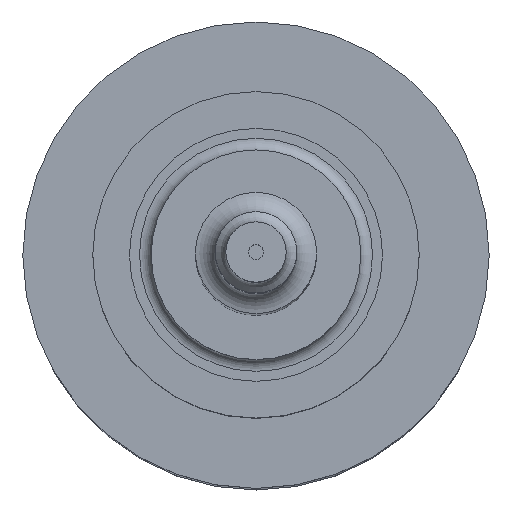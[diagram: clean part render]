
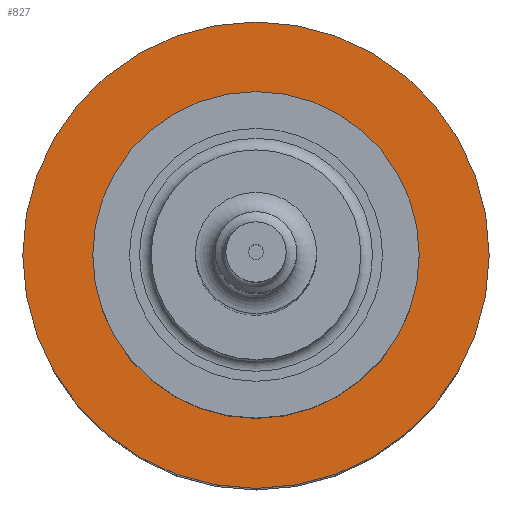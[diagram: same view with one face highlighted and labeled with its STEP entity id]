
A CAD part, top view. The second image highlights one B-rep face of the part: STEP entity #827.
In plain terms, the highlighted planar face has unit normal (0, 0, 1).
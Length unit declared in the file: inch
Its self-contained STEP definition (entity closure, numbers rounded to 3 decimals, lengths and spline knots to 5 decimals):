
#558=CARTESIAN_POINT('',(0.0,0.4375,1.62));
#559=VERTEX_POINT('',#558);
#560=CARTESIAN_POINT('',(0.0,0.0,1.62));
#561=DIRECTION('',(0.0,0.0,-1.0));
#562=DIRECTION('',(-1.0,0.0,0.0));
#563=AXIS2_PLACEMENT_3D('',#560,#561,#562);
#564=CIRCLE('',#563,0.4375);
#565=EDGE_CURVE('',#559,#559,#564,.T.);
#801=CARTESIAN_POINT('',(0.625,0.,1.62));
#802=VERTEX_POINT('',#801);
#803=CARTESIAN_POINT('',(0.0,0.0,1.62));
#804=DIRECTION('',(0.0,0.0,1.0));
#805=DIRECTION('',(-1.0,0.0,0.0));
#806=AXIS2_PLACEMENT_3D('',#803,#804,#805);
#807=CIRCLE('',#806,0.625);
#808=EDGE_CURVE('',#802,#802,#807,.T.);
#816=CARTESIAN_POINT('',(0.,0.,1.62));
#817=DIRECTION('',(0.0,0.0,1.0));
#818=DIRECTION('',(1.0,0.0,0.0));
#819=AXIS2_PLACEMENT_3D('',#816,#817,#818);
#820=PLANE('',#819);
#821=ORIENTED_EDGE('',*,*,#808,.T.);
#822=EDGE_LOOP('',(#821));
#823=FACE_OUTER_BOUND('',#822,.T.);
#824=ORIENTED_EDGE('',*,*,#565,.T.);
#825=EDGE_LOOP('',(#824));
#826=FACE_BOUND('',#825,.T.);
#827=ADVANCED_FACE('',(#823,#826),#820,.T.);
